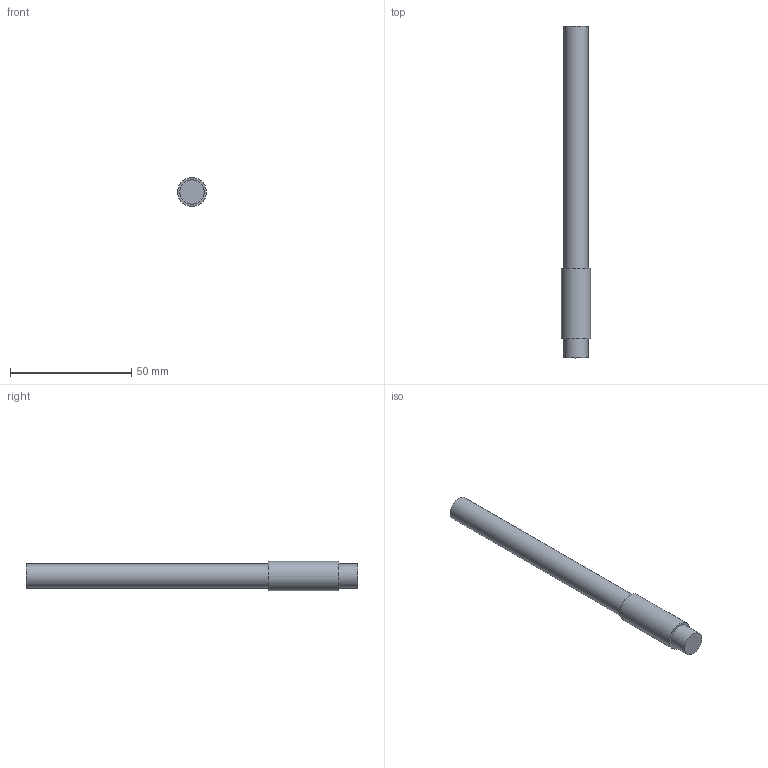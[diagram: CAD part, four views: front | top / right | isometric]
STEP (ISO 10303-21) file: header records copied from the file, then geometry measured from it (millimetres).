
FILE_DESCRIPTION(/* description */ (''),/* implementation_level */ '2;1');
FILE_NAME(/* name */ 'C:\Users\Jaime\Desktop\Universidad\MÁSTER ING. INDUSTRIAL\TFM\CD\PiezaC.stp',/* time_stamp */ '2018-02-16T00:00:13+01:00',/* author */ ('Jaime'),/* organization */ (''),/* preprocessor_version */ 'ST-DEVELOPER v16.5',/* originating_system */ 'Autodesk Inventor 2017',/* authorisation */ '');
FILE_SCHEMA (('AUTOMOTIVE_DESIGN { 1 0 10303 214 3 1 1 }'));
Length unit declared in the file: millimetre
Products named in the file (1): PiezaC
Bounding box: 12 x 137 x 12 mm (x, y, z)
Volume: 11762.1 mm3; surface area: 4712.4 mm2
Topology: 1 solids, 1 shells, 7 faces, 9 edges, 6 vertices
Faces by surface type: plane 4, cylinder 3
Full cylindrical faces by diameter (mm): 10 x2, 12 x1
Entity records: 158 total; most frequent: DIRECTION 28, CARTESIAN_POINT 20, AXIS2_PLACEMENT_3D 14, EDGE_LOOP 12, ORIENTED_EDGE 12, FACE_OUTER_BOUND 7, ADVANCED_FACE 7, CIRCLE 6
